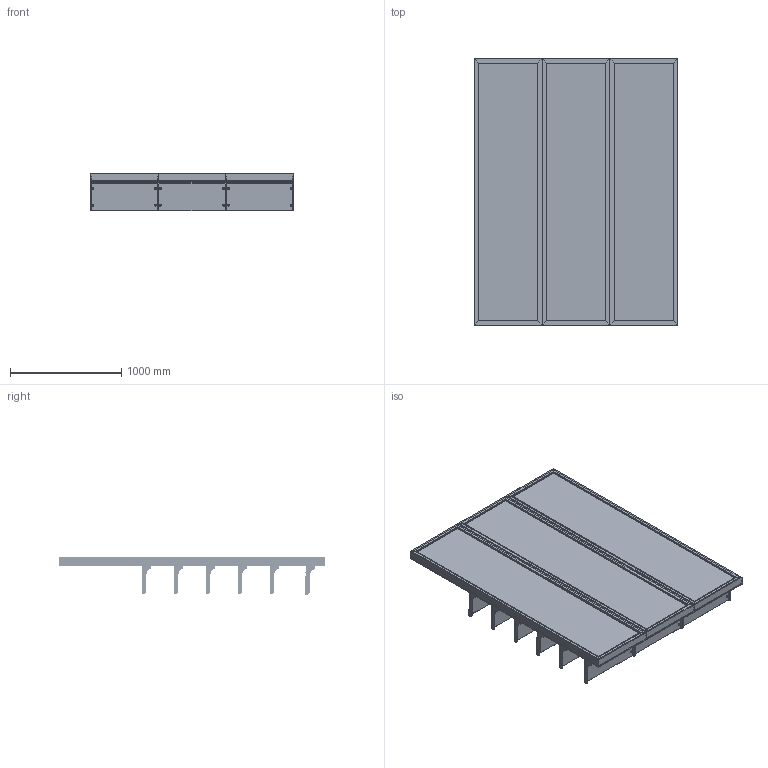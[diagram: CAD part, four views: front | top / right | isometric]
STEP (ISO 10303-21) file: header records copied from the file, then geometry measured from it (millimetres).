
FILE_DESCRIPTION (( 'STEP AP203' ), '1' );
FILE_NAME ('3m Triple Narrow Illuminated Salon Wall - Glass Shelving.STEP', '2026-03-30T13:28:24', ( '' ), ( '' ), 'SwSTEP 2.0', 'SolidWorks 2025', '' );
FILE_SCHEMA (( 'CONFIG_CONTROL_DESIGN' ));
Length unit declared in the file: millimetre
Products named in the file (12): 0001-31-SA29.STEP; 0001-31-115.STEP; 0001-31-GA01 - 610W Slotted Upright; 0000-31-113.STEP; 0001-31-SA28 - 610W Glass Shelf.STEP; 0001-31-123.STEP; 0001-31-SA28 - 610W Glass Shelf_Assem5; 3m Triple Narrow Illuminated Salon Wall - Glass Shelving; 0001-31-114.STEP; 0001-31-SA30.STEP; Narrow Illuminated Beauty Merchandising Display - Glass Shelving_Assem7; 0001-31-124.STEP
Assembly tree (32 placements, depth 6):
  3m Triple Narrow Illuminated Salon Wall - Glass Shelving
    Narrow Illuminated Beauty Merchandising Display - Glass Shelving_Assem7  x3
      0001-31-GA01 - 610W Slotted Upright
      0001-31-SA28 - 610W Glass Shelf_Assem5
        0001-31-SA28 - 610W Glass Shelf.STEP
          0001-31-SA29.STEP
            0000-31-113.STEP
            0001-31-114.STEP  x2
          0001-31-SA30.STEP
            0000-31-113.STEP
            0001-31-114.STEP  x2
          0001-31-115.STEP
          0001-31-123.STEP  x8
          0001-31-124.STEP  x4
Bounding box: 1829.25 x 2400 x 340.44 mm (x, y, z)
Volume: 42393670.1 mm3; surface area: 30525669.6 mm2
Topology: 360 solids, 360 shells, 6822 faces, 17244 edges, 11064 vertices
Faces by surface type: plane 4410, cylinder 2124, cone 288
Entity records: 20013 total; most frequent: CARTESIAN_POINT 3560, ORIENTED_EDGE 3282, DIRECTION 2717, EDGE_CURVE 1641, VECTOR 1471, LINE 1471, VERTEX_POINT 1082, AXIS2_PLACEMENT_3D 623
